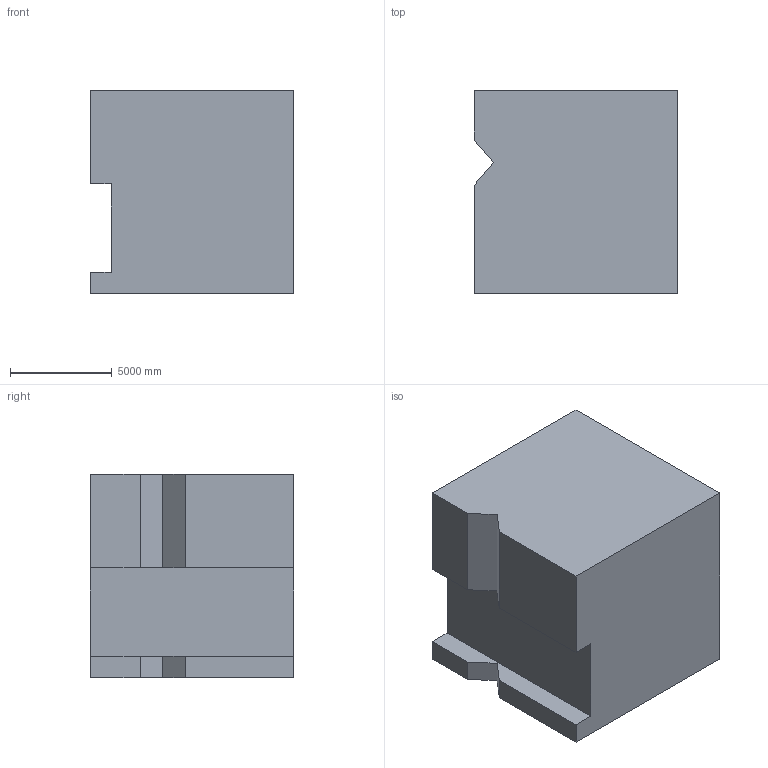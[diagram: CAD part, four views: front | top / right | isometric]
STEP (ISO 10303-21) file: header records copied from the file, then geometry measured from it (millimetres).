
FILE_DESCRIPTION (( 'STEP AP203' ), '1' );
FILE_NAME ('261.STEP', '2022-07-28T14:08:10', ( 'user' ), ( '' ), 'SwSTEP 2.0', 'SolidWorks 2021', '' );
FILE_SCHEMA (( 'CONFIG_CONTROL_DESIGN' ));
Length unit declared in the file: centimetre
Products named in the file (1): 261
Bounding box: 10000 x 10000 x 10000 mm (x, y, z)
Volume: 942535398394.6 mm3; surface area: 635681443.7 mm2
Topology: 1 solids, 1 shells, 20 faces, 51 edges, 34 vertices
Faces by surface type: plane 20
Entity records: 672 total; most frequent: CARTESIAN_POINT 106, ORIENTED_EDGE 102, DIRECTION 93, VECTOR 51, EDGE_CURVE 51, LINE 51, VERTEX_POINT 34, AXIS2_PLACEMENT_3D 21
